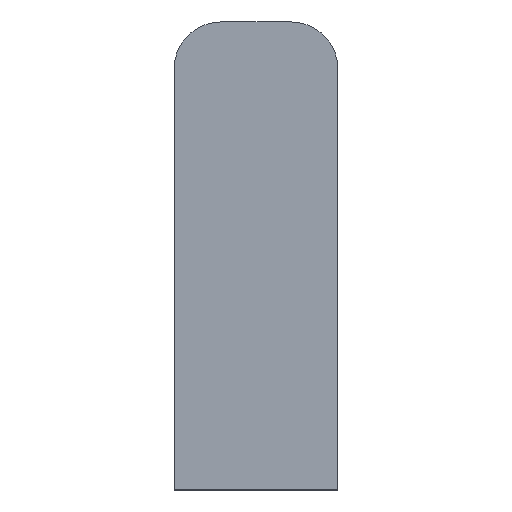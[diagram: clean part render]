
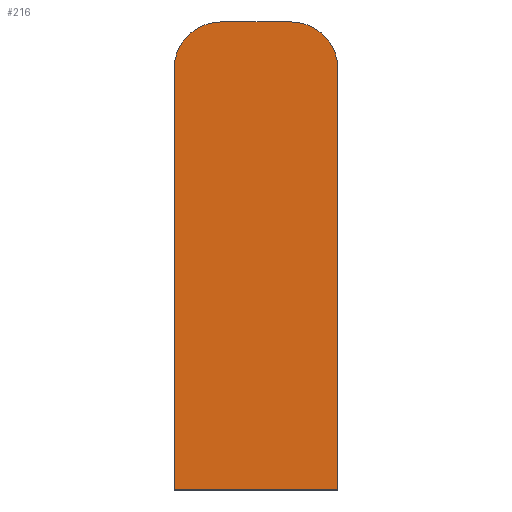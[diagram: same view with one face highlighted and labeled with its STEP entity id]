
A CAD part, front view. The second image highlights one B-rep face of the part: STEP entity #216.
In plain terms, the highlighted planar face has unit normal (0, -1, 0).
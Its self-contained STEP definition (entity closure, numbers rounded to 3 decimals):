
#2 = CARTESIAN_POINT ( 'NONE',  ( -5.25, 0., -16.5 ) ) ;
#3 = DIRECTION ( 'NONE',  ( 0., -1., 0. ) ) ;
#4 = DIRECTION ( 'NONE',  ( 1., 0., 0. ) ) ;
#5 = CARTESIAN_POINT ( 'NONE',  ( 2.25, 0., 10.5 ) ) ;
#10 = CARTESIAN_POINT ( 'NONE',  ( -2.25, 0., 10.5 ) ) ;
#16 = DIRECTION ( 'NONE',  ( -1., 0., 0. ) ) ;
#20 = CARTESIAN_POINT ( 'NONE',  ( 2.25, 0., 13.5 ) ) ;
#23 = DIRECTION ( 'NONE',  ( 0., 0., -1. ) ) ;
#27 = DIRECTION ( 'NONE',  ( -1., 0., 0. ) ) ;
#30 = CARTESIAN_POINT ( 'NONE',  ( 5.25, 0., -16.5 ) ) ;
#35 = DIRECTION ( 'NONE',  ( 0., -1., 0. ) ) ;
#36 = DIRECTION ( 'NONE',  ( -1., 0., 0. ) ) ;
#61 = PLANE ( 'NONE',  #139 ) ;
#64 = CARTESIAN_POINT ( 'NONE',  ( 0., 0., -1.5 ) ) ;
#69 = DIRECTION ( 'NONE',  ( 0., 1., 0. ) ) ;
#70 = DIRECTION ( 'NONE',  ( -1., 0., 0. ) ) ;
#94 = ORIENTED_EDGE ( 'NONE', *, *, #136, .T. ) ;
#97 = VERTEX_POINT ( 'NONE', #110 ) ;
#99 = DIRECTION ( 'NONE',  ( 0., 0., 1. ) ) ;
#100 = VERTEX_POINT ( 'NONE', #109 ) ;
#105 = VERTEX_POINT ( 'NONE', #117 ) ;
#106 = VERTEX_POINT ( 'NONE', #112 ) ;
#107 = CARTESIAN_POINT ( 'NONE',  ( -5.25, 0., -16.5 ) ) ;
#108 = CARTESIAN_POINT ( 'NONE',  ( -2.25, 0., 13.5 ) ) ;
#109 = CARTESIAN_POINT ( 'NONE',  ( 2.25, 0., 13.5 ) ) ;
#110 = CARTESIAN_POINT ( 'NONE',  ( -5.25, 0., 10.5 ) ) ;
#112 = CARTESIAN_POINT ( 'NONE',  ( 5.25, 0., -16.5 ) ) ;
#115 = VERTEX_POINT ( 'NONE', #108 ) ;
#117 = CARTESIAN_POINT ( 'NONE',  ( 5.25, 0., 10.5 ) ) ;
#119 = VERTEX_POINT ( 'NONE', #107 ) ;
#120 = CARTESIAN_POINT ( 'NONE',  ( 5.25, 0., -16.5 ) ) ;
#121 = LINE ( 'NONE', #30, #223 ) ;
#122 = LINE ( 'NONE', #120, #225 ) ;
#123 = ORIENTED_EDGE ( 'NONE', *, *, #127, .T. ) ;
#127 = EDGE_CURVE ( 'NONE', #119, #106, #121, .T. ) ;
#128 = EDGE_CURVE ( 'NONE', #106, #105, #122, .T. ) ;
#132 = EDGE_CURVE ( 'NONE', #105, #100, #232, .T. ) ;
#134 = AXIS2_PLACEMENT_3D ( 'NONE', #10, #35, #36 ) ;
#136 = EDGE_CURVE ( 'NONE', #97, #119, #231, .T. ) ;
#139 = AXIS2_PLACEMENT_3D ( 'NONE', #64, #69, #70 ) ;
#151 = AXIS2_PLACEMENT_3D ( 'NONE', #5, #3, #27 ) ;
#153 = EDGE_CURVE ( 'NONE', #100, #115, #229, .T. ) ;
#158 = EDGE_CURVE ( 'NONE', #115, #97, #251, .T. ) ;
#179 = ORIENTED_EDGE ( 'NONE', *, *, #132, .T. ) ;
#183 = ORIENTED_EDGE ( 'NONE', *, *, #158, .T. ) ;
#185 = ORIENTED_EDGE ( 'NONE', *, *, #153, .T. ) ;
#192 = EDGE_LOOP ( 'NONE', ( #205, #179, #185, #183, #94, #123 ) ) ;
#205 = ORIENTED_EDGE ( 'NONE', *, *, #128, .T. ) ;
#216 = ADVANCED_FACE ( 'NONE', ( #261 ), #61, .F. ) ;
#223 = VECTOR ( 'NONE', #4, 1000. ) ;
#225 = VECTOR ( 'NONE', #99, 1000. ) ;
#229 = LINE ( 'NONE', #20, #240 ) ;
#231 = LINE ( 'NONE', #2, #233 ) ;
#232 = CIRCLE ( 'NONE', #151, 3. ) ;
#233 = VECTOR ( 'NONE', #23, 1000. ) ;
#240 = VECTOR ( 'NONE', #16, 1000. ) ;
#251 = CIRCLE ( 'NONE', #134, 3. ) ;
#261 = FACE_OUTER_BOUND ( 'NONE', #192, .T. ) ;
